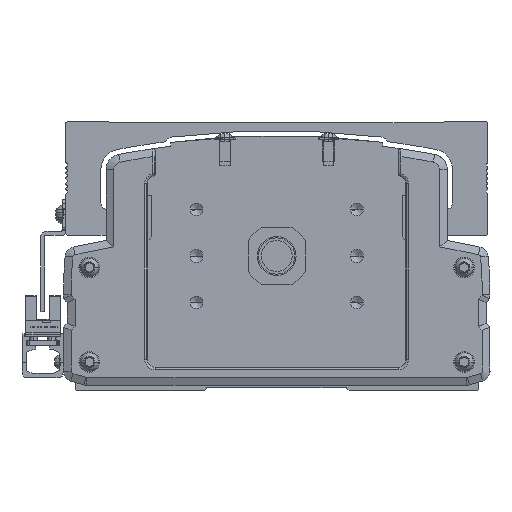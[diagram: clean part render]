
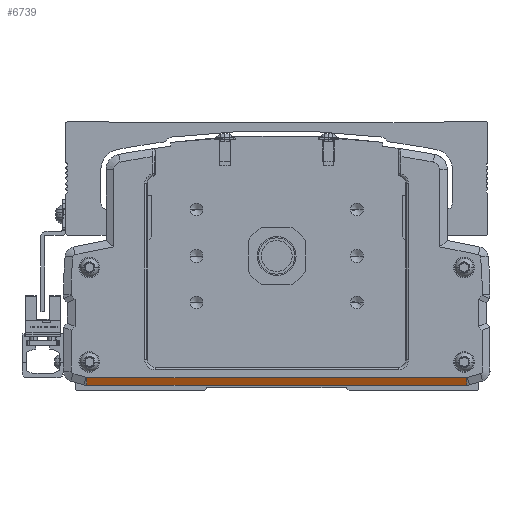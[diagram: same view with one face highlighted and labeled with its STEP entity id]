
A CAD part, front view. The second image highlights one B-rep face of the part: STEP entity #6739.
In plain terms, the highlighted planar face has unit normal (0, -0.894, -0.447).
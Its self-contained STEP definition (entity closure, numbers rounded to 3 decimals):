
#6739=ADVANCED_FACE('',(#14201),#14202,.F.);
#14201=FACE_OUTER_BOUND('',#23994,.T.);
#14202=PLANE('',#23995);
#23994=EDGE_LOOP('',(#44154,#44155,#44156,#44157));
#23995=AXIS2_PLACEMENT_3D('',#44158,#44159,#44160);
#44154=ORIENTED_EDGE('',*,*,#58608,.T.);
#44155=ORIENTED_EDGE('',*,*,#58609,.F.);
#44156=ORIENTED_EDGE('',*,*,#58610,.F.);
#44157=ORIENTED_EDGE('',*,*,#57463,.F.);
#44158=CARTESIAN_POINT('',(-599.999,-336.278,-50.001));
#44159=DIRECTION('',(0.,0.894,0.447));
#44160=DIRECTION('',(0.,0.447,-0.894));
#57463=EDGE_CURVE('',#70938,#70940,#70941,.T.);
#58608=EDGE_CURVE('',#70938,#71746,#72322,.T.);
#58609=EDGE_CURVE('',#72323,#71746,#72324,.T.);
#58610=EDGE_CURVE('',#70940,#72323,#72325,.T.);
#70938=VERTEX_POINT('',#90212);
#70940=VERTEX_POINT('',#90214);
#70941=LINE('',#90215,#90216);
#71746=VERTEX_POINT('',#91494);
#72322=LINE('',#92519,#92520);
#72323=VERTEX_POINT('',#92521);
#72324=LINE('',#92522,#92523);
#72325=LINE('',#92524,#92525);
#90212=CARTESIAN_POINT('',(-673.423,-337.778,-47.001));
#90214=CARTESIAN_POINT('',(-526.575,-337.778,-47.001));
#90215=CARTESIAN_POINT('',(-600.015,-337.778,-47.001));
#90216=VECTOR('',#103058,1000.0);
#91494=CARTESIAN_POINT('',(-673.423,-336.278,-50.001));
#92519=CARTESIAN_POINT('',(-673.423,-337.778,-47.001));
#92520=VECTOR('',#104123,1000.0);
#92521=CARTESIAN_POINT('',(-526.575,-336.278,-50.001));
#92522=CARTESIAN_POINT('',(-599.999,-336.278,-50.001));
#92523=VECTOR('',#104124,1000.0);
#92524=CARTESIAN_POINT('',(-526.575,-337.778,-47.001));
#92525=VECTOR('',#104125,1000.0);
#103058=DIRECTION('',(1.0,0.,0.));
#104123=DIRECTION('',(0.,0.447,-0.894));
#104124=DIRECTION('',(-1.0,0.,0.));
#104125=DIRECTION('',(0.,0.447,-0.894));
